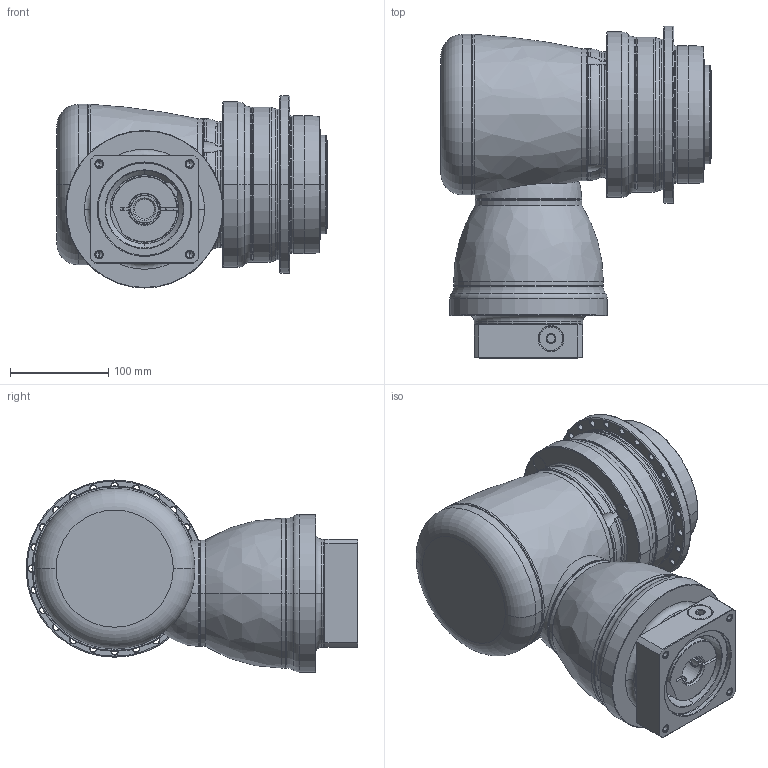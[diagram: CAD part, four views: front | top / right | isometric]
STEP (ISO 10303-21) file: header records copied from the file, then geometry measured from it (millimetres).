
FILE_DESCRIPTION((''),'2;1');
FILE_NAME('APK140_2ST_28-P0409610201_ASM','2018-05-23T',('D00080'),(''),'PRO/ENGINEER BY PARAMETRIC TECHNOLOGY CORPORATION, 2008170','PRO/ENGINEER BY PARAMETRIC TECHNOLOGY CORPORATION, 2008170','');
FILE_SCHEMA(('CONFIG_CONTROL_DESIGN'));
Length unit declared in the file: millimetre
Products named in the file (13): P1008500002; P1802510011; P0278501003; P0359501103; P1211500001; P1315500001; P1007501001; P1318501101; P0503600010; P0912551001; P0409610201; 21711418017; APK140_2ST_28-P0409610201_ASM
Assembly tree (12 placements, depth 2):
  APK140_2ST_28-P0409610201_ASM
    P1008500002
    P1802510011
    P0278501003
    P0359501103
    P1211500001
    P1315500001
    P1007501001
    P1318501101
    P0503600010
    P0912551001
    P0409610201
    21711418017
Bounding box: 274.5 x 337 x 195 mm (x, y, z)
Volume: 7254575.4 mm3; surface area: 660796.8 mm2
Topology: 13 solids, 38 shells, 851 faces, 1960 edges, 1195 vertices
Faces by surface type: cylinder 356, cone 229, plane 144, torus 101, bspline 19, sphere 2
Entity records: 29888 total; most frequent: CARTESIAN_POINT 9889, DIRECTION 4590, ORIENTED_EDGE 3730, AXIS2_PLACEMENT_3D 1968, EDGE_CURVE 1916, VERTEX_POINT 1195, CIRCLE 1101, EDGE_LOOP 1019
